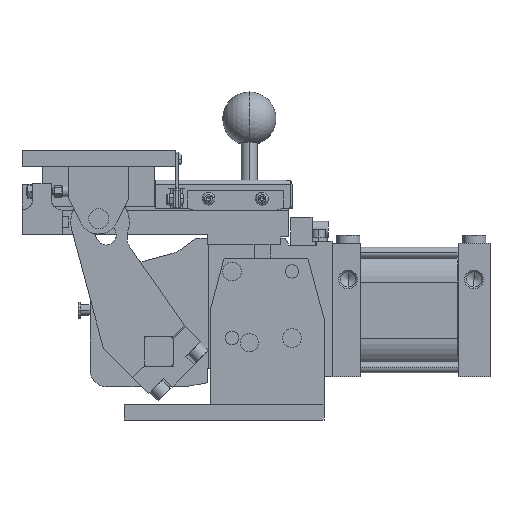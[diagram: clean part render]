
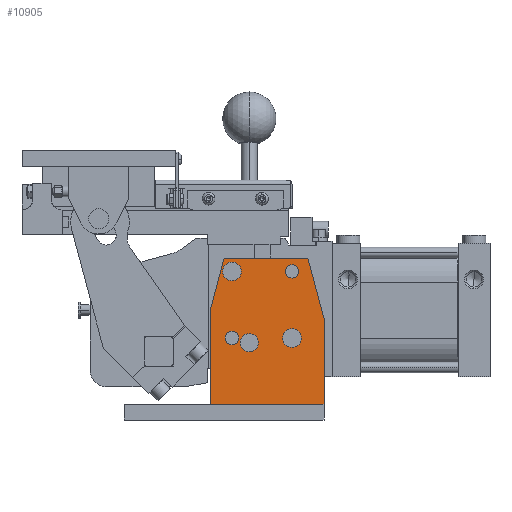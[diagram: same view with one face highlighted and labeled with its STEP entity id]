
A CAD part, front view. The second image highlights one B-rep face of the part: STEP entity #10905.
In plain terms, the highlighted planar face has unit normal (0, -1, 0) as drawn and (0, 0, 1) by its records, which use the part's own axes.
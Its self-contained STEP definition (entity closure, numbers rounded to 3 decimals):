
#123 = EDGE_CURVE ( 'NONE', #7186, #42379, #21338, .T. ) ;
#1028 = EDGE_LOOP ( 'NONE', ( #13158, #21493 ) ) ;
#1099 = CARTESIAN_POINT ( 'NONE',  ( 25., -124., 39. ) ) ;
#1213 = VERTEX_POINT ( 'NONE', #4621 ) ;
#1257 = ORIENTED_EDGE ( 'NONE', *, *, #22328, .T. ) ;
#1612 = CARTESIAN_POINT ( 'NONE',  ( 55., -100., 39. ) ) ;
#1687 = DIRECTION ( 'NONE',  ( -1., 0., 0. ) ) ;
#2391 = DIRECTION ( 'NONE',  ( 1., 0., 0. ) ) ;
#2570 = CIRCLE ( 'NONE', #33948, 5. ) ;
#2849 = DIRECTION ( 'NONE',  ( -1., 0., 0. ) ) ;
#3110 = CARTESIAN_POINT ( 'NONE',  ( 10., -55., 39. ) ) ;
#3169 = EDGE_LOOP ( 'NONE', ( #35953, #8192 ) ) ;
#4123 = LINE ( 'NONE', #42458, #40934 ) ;
#4571 = CARTESIAN_POINT ( 'NONE',  ( 5., -55., 39. ) ) ;
#4621 = CARTESIAN_POINT ( 'NONE',  ( 15., -55., 39. ) ) ;
#4992 = EDGE_CURVE ( 'NONE', #25346, #8680, #18580, .T. ) ;
#5640 = CARTESIAN_POINT ( 'NONE',  ( 60., -55., 39. ) ) ;
#6053 = CIRCLE ( 'NONE', #34422, 5. ) ;
#6376 = CIRCLE ( 'NONE', #39247, 6.875 ) ;
#6509 = EDGE_CURVE ( 'NONE', #21291, #14259, #25208, .T. ) ;
#7112 = CARTESIAN_POINT ( 'NONE',  ( 13.375, -68., 39. ) ) ;
#7186 = VERTEX_POINT ( 'NONE', #10930 ) ;
#8116 = CARTESIAN_POINT ( 'NONE',  ( 60., -100., 39. ) ) ;
#8192 = ORIENTED_EDGE ( 'NONE', *, *, #34688, .F. ) ;
#8217 = EDGE_CURVE ( 'NONE', #28861, #1213, #2570, .T. ) ;
#8338 = EDGE_CURVE ( 'NONE', #42379, #7186, #8454, .T. ) ;
#8440 = CARTESIAN_POINT ( 'NONE',  ( 17., -100., 39. ) ) ;
#8454 = CIRCLE ( 'NONE', #43535, 7. ) ;
#8517 = LINE ( 'NONE', #26765, #8591 ) ;
#8580 = DIRECTION ( 'NONE',  ( -1., 0., 0. ) ) ;
#8591 = VECTOR ( 'NONE', #23021, 1000. ) ;
#8680 = VERTEX_POINT ( 'NONE', #9242 ) ;
#8706 = DIRECTION ( 'NONE',  ( 0., -1., 0. ) ) ;
#8754 = AXIS2_PLACEMENT_3D ( 'NONE', #9234, #27255, #16705 ) ;
#8840 = DIRECTION ( 'NONE',  ( -1., 0., 0. ) ) ;
#9130 = DIRECTION ( 'NONE',  ( 0., 0., 1. ) ) ;
#9234 = CARTESIAN_POINT ( 'NONE',  ( 6.5, -68., 39. ) ) ;
#9242 = CARTESIAN_POINT ( 'NONE',  ( 3., -100., 39. ) ) ;
#9316 = CIRCLE ( 'NONE', #42157, 7. ) ;
#9607 = DIRECTION ( 'NONE',  ( 0., 0., -1. ) ) ;
#10078 = FACE_BOUND ( 'NONE', #35650, .T. ) ;
#10110 = VERTEX_POINT ( 'NONE', #35964 ) ;
#10345 = DIRECTION ( 'NONE',  ( -1., 0., 0. ) ) ;
#10519 = ORIENTED_EDGE ( 'NONE', *, *, #8217, .F. ) ;
#10533 = EDGE_CURVE ( 'NONE', #8680, #25346, #9316, .T. ) ;
#10634 = EDGE_CURVE ( 'NONE', #39377, #19090, #8517, .T. ) ;
#10728 = DIRECTION ( 'NONE',  ( 0., 0., 1. ) ) ;
#10905 = ADVANCED_FACE ( 'NONE', ( #35345, #42092, #13591, #10078, #34418, #24365 ), #27837, .F. ) ;
#10930 = CARTESIAN_POINT ( 'NONE',  ( 53., -55., 39. ) ) ;
#11190 = DIRECTION ( 'NONE',  ( -0.966, 0.259, 0. ) ) ;
#11370 = LINE ( 'NONE', #1099, #24166 ) ;
#11516 = VERTEX_POINT ( 'NONE', #14118 ) ;
#11631 = AXIS2_PLACEMENT_3D ( 'NONE', #17001, #45565, #28004 ) ;
#12297 = EDGE_CURVE ( 'NONE', #19090, #38912, #36211, .T. ) ;
#12561 = EDGE_CURVE ( 'NONE', #38912, #10110, #4123, .T. ) ;
#12826 = ORIENTED_EDGE ( 'NONE', *, *, #44521, .T. ) ;
#12851 = LINE ( 'NONE', #38314, #38377 ) ;
#12869 = ORIENTED_EDGE ( 'NONE', *, *, #15053, .F. ) ;
#12881 = CARTESIAN_POINT ( 'NONE',  ( 10., -100., 39. ) ) ;
#13158 = ORIENTED_EDGE ( 'NONE', *, *, #28404, .F. ) ;
#13591 = FACE_BOUND ( 'NONE', #3169, .T. ) ;
#13857 = DIRECTION ( 'NONE',  ( 0., 0., 1. ) ) ;
#14118 = CARTESIAN_POINT ( 'NONE',  ( -39.5, -124., 39. ) ) ;
#14259 = VERTEX_POINT ( 'NONE', #7112 ) ;
#15033 = VERTEX_POINT ( 'NONE', #1612 ) ;
#15053 = EDGE_CURVE ( 'NONE', #1213, #28861, #16859, .T. ) ;
#16318 = CARTESIAN_POINT ( 'NONE',  ( 10., -55., 39. ) ) ;
#16386 = ORIENTED_EDGE ( 'NONE', *, *, #4992, .F. ) ;
#16705 = DIRECTION ( 'NONE',  ( 1., 0., 0. ) ) ;
#16859 = CIRCLE ( 'NONE', #28822, 5. ) ;
#16876 = ORIENTED_EDGE ( 'NONE', *, *, #12297, .T. ) ;
#17001 = CARTESIAN_POINT ( 'NONE',  ( 60., -55., 39. ) ) ;
#17190 = ORIENTED_EDGE ( 'NONE', *, *, #8338, .F. ) ;
#17640 = VERTEX_POINT ( 'NONE', #21500 ) ;
#18457 = EDGE_CURVE ( 'NONE', #15033, #37148, #6053, .T. ) ;
#18580 = CIRCLE ( 'NONE', #44756, 7. ) ;
#19090 = VERTEX_POINT ( 'NONE', #37001 ) ;
#19182 = DIRECTION ( 'NONE',  ( 0., 0., 1. ) ) ;
#19242 = DIRECTION ( 'NONE',  ( 0., 0., 1. ) ) ;
#20744 = VECTOR ( 'NONE', #11190, 1000. ) ;
#21291 = VERTEX_POINT ( 'NONE', #41160 ) ;
#21338 = CIRCLE ( 'NONE', #11631, 7. ) ;
#21493 = ORIENTED_EDGE ( 'NONE', *, *, #6509, .F. ) ;
#21500 = CARTESIAN_POINT ( 'NONE',  ( 25., -124., 39. ) ) ;
#22040 = LINE ( 'NONE', #29296, #22074 ) ;
#22074 = VECTOR ( 'NONE', #8706, 1000. ) ;
#22328 = EDGE_CURVE ( 'NONE', #10110, #11516, #22040, .T. ) ;
#23021 = DIRECTION ( 'NONE',  ( 0., 1., 0. ) ) ;
#24166 = VECTOR ( 'NONE', #36395, 1000. ) ;
#24365 = FACE_OUTER_BOUND ( 'NONE', #31607, .T. ) ;
#24882 = ORIENTED_EDGE ( 'NONE', *, *, #10634, .T. ) ;
#25187 = CARTESIAN_POINT ( 'NONE',  ( 67., -55., 39. ) ) ;
#25208 = CIRCLE ( 'NONE', #8754, 6.875 ) ;
#25346 = VERTEX_POINT ( 'NONE', #8440 ) ;
#25663 = DIRECTION ( 'NONE',  ( 0., 0., 1. ) ) ;
#25692 = CARTESIAN_POINT ( 'NONE',  ( 10., -100., 39. ) ) ;
#26386 = DIRECTION ( 'NONE',  ( 0., 0., 1. ) ) ;
#26765 = CARTESIAN_POINT ( 'NONE',  ( 70., -49.048, 39. ) ) ;
#27255 = DIRECTION ( 'NONE',  ( 0., 0., 1. ) ) ;
#27816 = AXIS2_PLACEMENT_3D ( 'NONE', #45859, #9607, #2849 ) ;
#27837 = PLANE ( 'NONE',  #27816 ) ;
#28004 = DIRECTION ( 'NONE',  ( -1., 0., 0. ) ) ;
#28404 = EDGE_CURVE ( 'NONE', #14259, #21291, #6376, .T. ) ;
#28822 = AXIS2_PLACEMENT_3D ( 'NONE', #16318, #30588, #42176 ) ;
#28861 = VERTEX_POINT ( 'NONE', #4571 ) ;
#29296 = CARTESIAN_POINT ( 'NONE',  ( -39.5, 0., 39. ) ) ;
#30588 = DIRECTION ( 'NONE',  ( 0., 0., 1. ) ) ;
#30889 = ORIENTED_EDGE ( 'NONE', *, *, #12561, .T. ) ;
#30964 = CIRCLE ( 'NONE', #41413, 5. ) ;
#31607 = EDGE_LOOP ( 'NONE', ( #30889, #1257, #12826, #38463, #24882, #16876 ) ) ;
#33948 = AXIS2_PLACEMENT_3D ( 'NONE', #3110, #13857, #10345 ) ;
#34276 = EDGE_CURVE ( 'NONE', #17640, #39377, #12851, .T. ) ;
#34418 = FACE_BOUND ( 'NONE', #35002, .T. ) ;
#34422 = AXIS2_PLACEMENT_3D ( 'NONE', #8116, #25663, #8580 ) ;
#34688 = EDGE_CURVE ( 'NONE', #37148, #15033, #30964, .T. ) ;
#35002 = EDGE_LOOP ( 'NONE', ( #40994, #17190 ) ) ;
#35142 = CARTESIAN_POINT ( 'NONE',  ( 70., -111.942, 39. ) ) ;
#35345 = FACE_BOUND ( 'NONE', #1028, .T. ) ;
#35650 = EDGE_LOOP ( 'NONE', ( #40032, #16386 ) ) ;
#35759 = DIRECTION ( 'NONE',  ( -1., 0., 0. ) ) ;
#35909 = CARTESIAN_POINT ( 'NONE',  ( 60., -100., 39. ) ) ;
#35953 = ORIENTED_EDGE ( 'NONE', *, *, #18457, .F. ) ;
#35964 = CARTESIAN_POINT ( 'NONE',  ( -39.5, -39., 39. ) ) ;
#36211 = LINE ( 'NONE', #43673, #20744 ) ;
#36395 = DIRECTION ( 'NONE',  ( 1., 0., 0. ) ) ;
#37001 = CARTESIAN_POINT ( 'NONE',  ( 70., -49.048, 39. ) ) ;
#37061 = CARTESIAN_POINT ( 'NONE',  ( 65., -100., 39. ) ) ;
#37148 = VERTEX_POINT ( 'NONE', #37061 ) ;
#37351 = EDGE_LOOP ( 'NONE', ( #10519, #12869 ) ) ;
#37963 = DIRECTION ( 'NONE',  ( -1., 0., 0. ) ) ;
#38314 = CARTESIAN_POINT ( 'NONE',  ( 70., -111.942, 39. ) ) ;
#38377 = VECTOR ( 'NONE', #45322, 1000. ) ;
#38463 = ORIENTED_EDGE ( 'NONE', *, *, #34276, .T. ) ;
#38912 = VERTEX_POINT ( 'NONE', #41170 ) ;
#39247 = AXIS2_PLACEMENT_3D ( 'NONE', #44466, #19182, #2391 ) ;
#39377 = VERTEX_POINT ( 'NONE', #35142 ) ;
#40032 = ORIENTED_EDGE ( 'NONE', *, *, #10533, .F. ) ;
#40934 = VECTOR ( 'NONE', #46218, 1000. ) ;
#40994 = ORIENTED_EDGE ( 'NONE', *, *, #123, .F. ) ;
#41160 = CARTESIAN_POINT ( 'NONE',  ( -0.375, -68., 39. ) ) ;
#41170 = CARTESIAN_POINT ( 'NONE',  ( 32.5, -39., 39. ) ) ;
#41413 = AXIS2_PLACEMENT_3D ( 'NONE', #35909, #19242, #37963 ) ;
#42092 = FACE_BOUND ( 'NONE', #37351, .T. ) ;
#42157 = AXIS2_PLACEMENT_3D ( 'NONE', #25692, #26386, #8840 ) ;
#42176 = DIRECTION ( 'NONE',  ( -1., 0., 0. ) ) ;
#42379 = VERTEX_POINT ( 'NONE', #25187 ) ;
#42458 = CARTESIAN_POINT ( 'NONE',  ( -51.5, -39., 39. ) ) ;
#43535 = AXIS2_PLACEMENT_3D ( 'NONE', #5640, #9130, #1687 ) ;
#43673 = CARTESIAN_POINT ( 'NONE',  ( 70., -49.048, 39. ) ) ;
#44466 = CARTESIAN_POINT ( 'NONE',  ( 6.5, -68., 39. ) ) ;
#44521 = EDGE_CURVE ( 'NONE', #11516, #17640, #11370, .T. ) ;
#44756 = AXIS2_PLACEMENT_3D ( 'NONE', #12881, #10728, #35759 ) ;
#45322 = DIRECTION ( 'NONE',  ( 0.966, 0.259, 0. ) ) ;
#45565 = DIRECTION ( 'NONE',  ( 0., 0., 1. ) ) ;
#45859 = CARTESIAN_POINT ( 'NONE',  ( 0., 0., 39. ) ) ;
#46218 = DIRECTION ( 'NONE',  ( -1., 0., 0. ) ) ;
